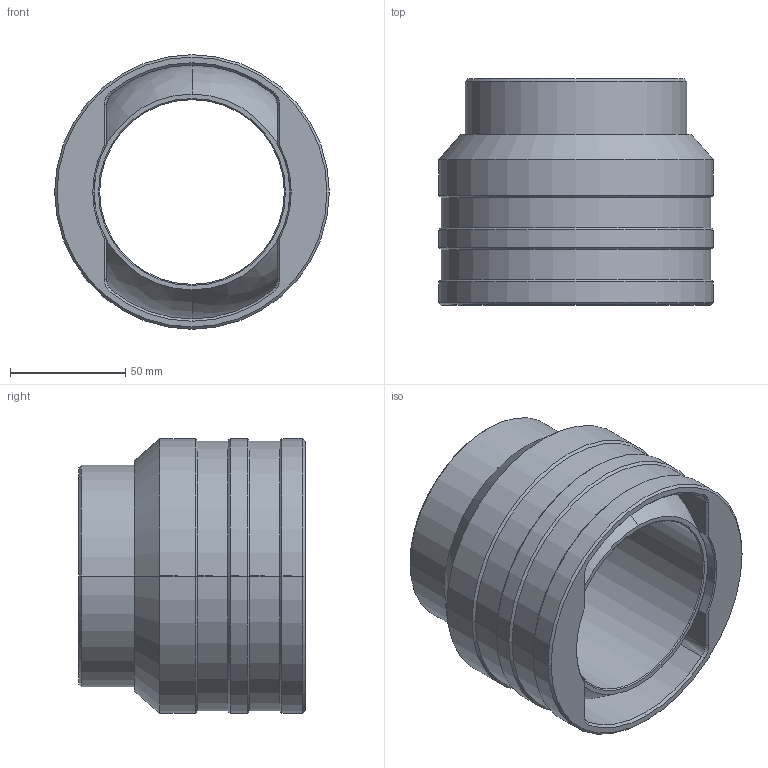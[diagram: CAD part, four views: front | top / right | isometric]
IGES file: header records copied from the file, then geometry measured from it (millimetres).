
Start section: 3D InterOp IGES (Version 20 0 1), Spatial Corp. Copyright (c) 1999-2007.
Global section: file name: 10.11.08.igs; native system: Spatial Corp.; preprocessor: 3D InterOp GENERIC/IGES 3.0; author: Noname; organization: Noname; date: 20111110.164039; units: metre
Bounding box: 119 x 98 x 119 mm (x, y, z)
Surface area: 116095.6 mm2 (no closed solid volume)
Topology: 0 solids, 0 shells, 76 faces, 1120 edges, 1890 vertices
Faces by surface type: revolution 63, extrusion 13
